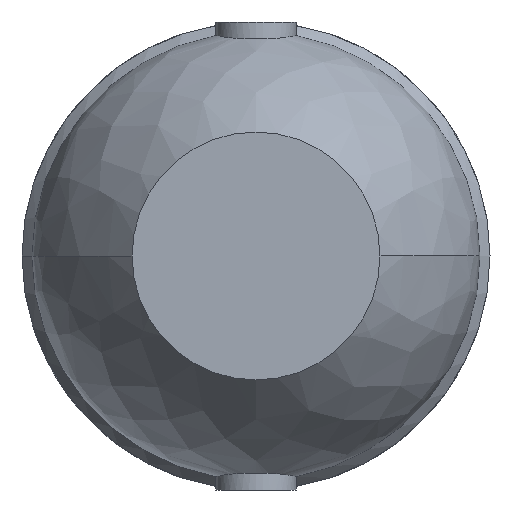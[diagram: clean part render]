
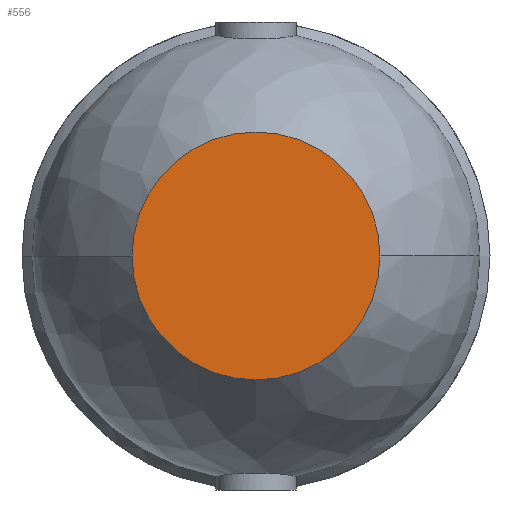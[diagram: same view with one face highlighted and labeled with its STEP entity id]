
A CAD part, front view. The second image highlights one B-rep face of the part: STEP entity #556.
In plain terms, the highlighted planar face has unit normal (0, -1, 0).
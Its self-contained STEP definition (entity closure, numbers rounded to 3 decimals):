
#47 = PLANE ( 'NONE',  #1737 ) ;
#149 = EDGE_CURVE ( 'NONE', #629, #1320, #2464, .T. ) ;
#255 = CARTESIAN_POINT ( 'NONE',  ( 0., -40., 0. ) ) ;
#556 = ADVANCED_FACE ( 'NONE', ( #1897 ), #47, .T. ) ;
#589 = EDGE_CURVE ( 'NONE', #1320, #629, #2894, .T. ) ;
#629 = VERTEX_POINT ( 'NONE', #2572 ) ;
#632 = DIRECTION ( 'NONE',  ( -1., 0., 0. ) ) ;
#649 = EDGE_LOOP ( 'NONE', ( #844, #1422 ) ) ;
#742 = DIRECTION ( 'NONE',  ( 1., 0., 0. ) ) ;
#844 = ORIENTED_EDGE ( 'NONE', *, *, #589, .F. ) ;
#1320 = VERTEX_POINT ( 'NONE', #1894 ) ;
#1422 = ORIENTED_EDGE ( 'NONE', *, *, #149, .F. ) ;
#1536 = DIRECTION ( 'NONE',  ( 0., 1., 0. ) ) ;
#1600 = DIRECTION ( 'NONE',  ( 0., 1., 0. ) ) ;
#1656 = CARTESIAN_POINT ( 'NONE',  ( 0., -40., 0. ) ) ;
#1737 = AXIS2_PLACEMENT_3D ( 'NONE', #2293, #2802, #742 ) ;
#1832 = AXIS2_PLACEMENT_3D ( 'NONE', #255, #1536, #632 ) ;
#1894 = CARTESIAN_POINT ( 'NONE',  ( -18.543, -40., 0. ) ) ;
#1897 = FACE_OUTER_BOUND ( 'NONE', #649, .T. ) ;
#2247 = AXIS2_PLACEMENT_3D ( 'NONE', #1656, #1600, #2334 ) ;
#2293 = CARTESIAN_POINT ( 'NONE',  ( 0., -40., 0. ) ) ;
#2334 = DIRECTION ( 'NONE',  ( -1., 0., 0. ) ) ;
#2464 = CIRCLE ( 'NONE', #1832, 18.543 ) ;
#2572 = CARTESIAN_POINT ( 'NONE',  ( 18.543, -40., 0. ) ) ;
#2802 = DIRECTION ( 'NONE',  ( 0., -1., 0. ) ) ;
#2894 = CIRCLE ( 'NONE', #2247, 18.543 ) ;
